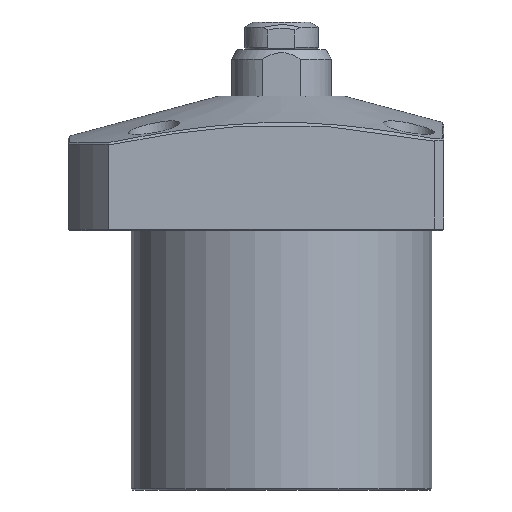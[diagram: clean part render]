
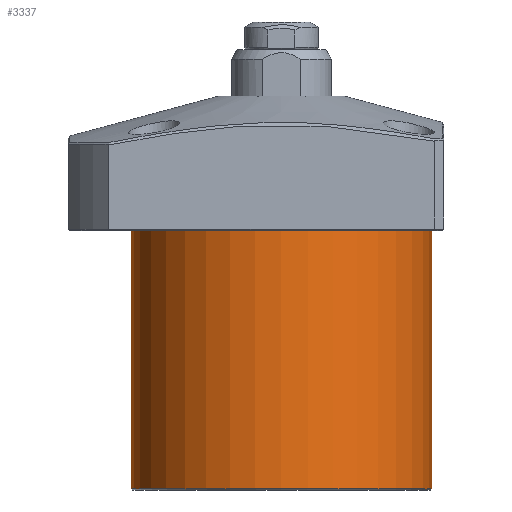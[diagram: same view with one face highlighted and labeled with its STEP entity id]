
A CAD part, front view. The second image highlights one B-rep face of the part: STEP entity #3337.
In plain terms, the highlighted cylindrical face has radius 32.4 mm (diameter 64.8 mm), a partial arc.
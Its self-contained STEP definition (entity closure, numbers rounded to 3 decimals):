
#190 = AXIS2_PLACEMENT_3D ( 'NONE', #1181, #347, #735 ) ;
#347 = DIRECTION ( 'NONE',  ( 0., 0., -1. ) ) ;
#429 = CARTESIAN_POINT ( 'NONE',  ( -32.4, 0., 0.3 ) ) ;
#524 = EDGE_CURVE ( 'NONE', #1199, #2983, #2343, .T. ) ;
#529 = ORIENTED_EDGE ( 'NONE', *, *, #1892, .T. ) ;
#650 = DIRECTION ( 'NONE',  ( 1., 0., 0. ) ) ;
#678 = CARTESIAN_POINT ( 'NONE',  ( 0., 0., 0.3 ) ) ;
#735 = DIRECTION ( 'NONE',  ( -1., 0., 0. ) ) ;
#813 = DIRECTION ( 'NONE',  ( 0., 0., -1. ) ) ;
#1070 = CIRCLE ( 'NONE', #4062, 32.4 ) ;
#1128 = EDGE_CURVE ( 'NONE', #1199, #1768, #1070, .T. ) ;
#1181 = CARTESIAN_POINT ( 'NONE',  ( 0., 0., 56. ) ) ;
#1199 = VERTEX_POINT ( 'NONE', #5235 ) ;
#1489 = DIRECTION ( 'NONE',  ( 0., 0., 1. ) ) ;
#1510 = FACE_OUTER_BOUND ( 'NONE', #5250, .T. ) ;
#1583 = EDGE_CURVE ( 'NONE', #1768, #4308, #3244, .T. ) ;
#1768 = VERTEX_POINT ( 'NONE', #4377 ) ;
#1892 = EDGE_CURVE ( 'NONE', #2983, #4308, #2215, .T. ) ;
#1973 = VECTOR ( 'NONE', #4025, 1000. ) ;
#2123 = CARTESIAN_POINT ( 'NONE',  ( 32.4, 0., 0.3 ) ) ;
#2208 = ORIENTED_EDGE ( 'NONE', *, *, #1128, .F. ) ;
#2215 = CIRCLE ( 'NONE', #3627, 32.4 ) ;
#2245 = ORIENTED_EDGE ( 'NONE', *, *, #1583, .F. ) ;
#2343 = LINE ( 'NONE', #4471, #1973 ) ;
#2834 = CYLINDRICAL_SURFACE ( 'NONE', #190, 32.4 ) ;
#2983 = VERTEX_POINT ( 'NONE', #429 ) ;
#3168 = DIRECTION ( 'NONE',  ( 1., 0., 0. ) ) ;
#3244 = LINE ( 'NONE', #5390, #5304 ) ;
#3337 = ADVANCED_FACE ( 'NONE', ( #1510 ), #2834, .T. ) ;
#3627 = AXIS2_PLACEMENT_3D ( 'NONE', #678, #5192, #650 ) ;
#4025 = DIRECTION ( 'NONE',  ( 0., 0., -1. ) ) ;
#4062 = AXIS2_PLACEMENT_3D ( 'NONE', #5267, #1489, #3168 ) ;
#4308 = VERTEX_POINT ( 'NONE', #2123 ) ;
#4377 = CARTESIAN_POINT ( 'NONE',  ( 32.4, 0., 56. ) ) ;
#4463 = ORIENTED_EDGE ( 'NONE', *, *, #524, .T. ) ;
#4471 = CARTESIAN_POINT ( 'NONE',  ( -32.4, 0., 56. ) ) ;
#5192 = DIRECTION ( 'NONE',  ( 0., 0., 1. ) ) ;
#5235 = CARTESIAN_POINT ( 'NONE',  ( -32.4, 0., 56. ) ) ;
#5250 = EDGE_LOOP ( 'NONE', ( #2245, #2208, #4463, #529 ) ) ;
#5267 = CARTESIAN_POINT ( 'NONE',  ( 0., 0., 56. ) ) ;
#5304 = VECTOR ( 'NONE', #813, 1000. ) ;
#5390 = CARTESIAN_POINT ( 'NONE',  ( 32.4, 0., 56. ) ) ;
